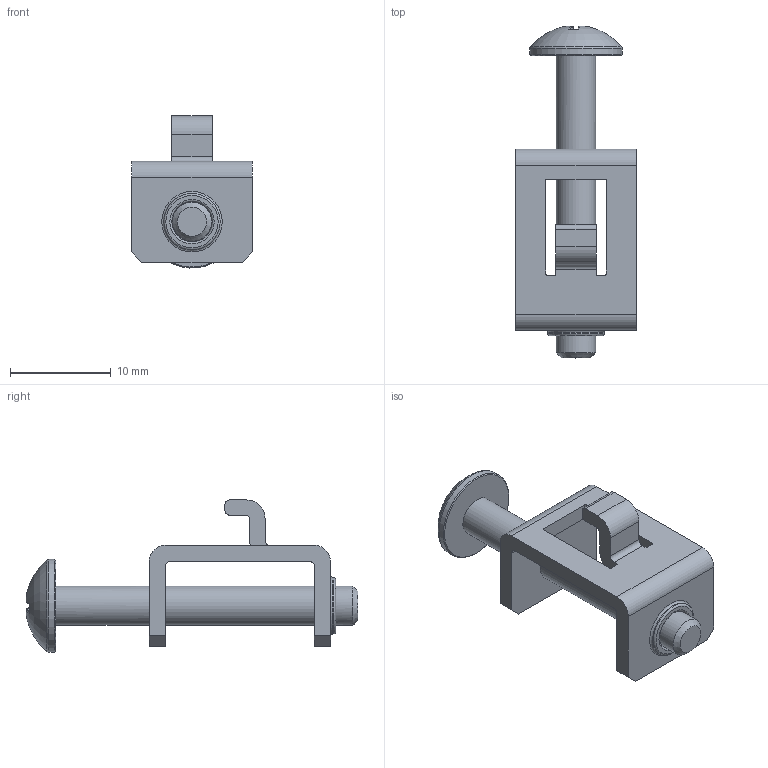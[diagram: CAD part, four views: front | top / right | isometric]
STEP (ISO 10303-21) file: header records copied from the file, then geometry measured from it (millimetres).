
FILE_DESCRIPTION (( 'STEP AP214' ), '1' );
FILE_NAME ('宏扼南_备屈.STEP', '2024-02-23T02:10:53', ( '' ), ( '' ), 'SwSTEP 2.0', 'SolidWorks 2020', '' );
FILE_SCHEMA (( 'AUTOMOTIVE_DESIGN' ));
Length unit declared in the file: millimetre
Products named in the file (1): 宏扼南_备屈
Bounding box: 12 x 32.95 x 15.09 mm (x, y, z)
Volume: 1062.6 mm3; surface area: 1457.1 mm2
Topology: 1 solids, 1 shells, 106 faces, 270 edges, 171 vertices
Faces by surface type: plane 43, cylinder 32, bspline 24, torus 5, cone 2
Full cylindrical faces by diameter (mm): 3.9 x3, 4 x1, 5.6 x1, 9.2 x1
Entity records: 3616 total; most frequent: CARTESIAN_POINT 1221, ORIENTED_EDGE 504, DIRECTION 452, EDGE_CURVE 252, VERTEX_POINT 166, AXIS2_PLACEMENT_3D 165, EDGE_LOOP 128, LINE 122
